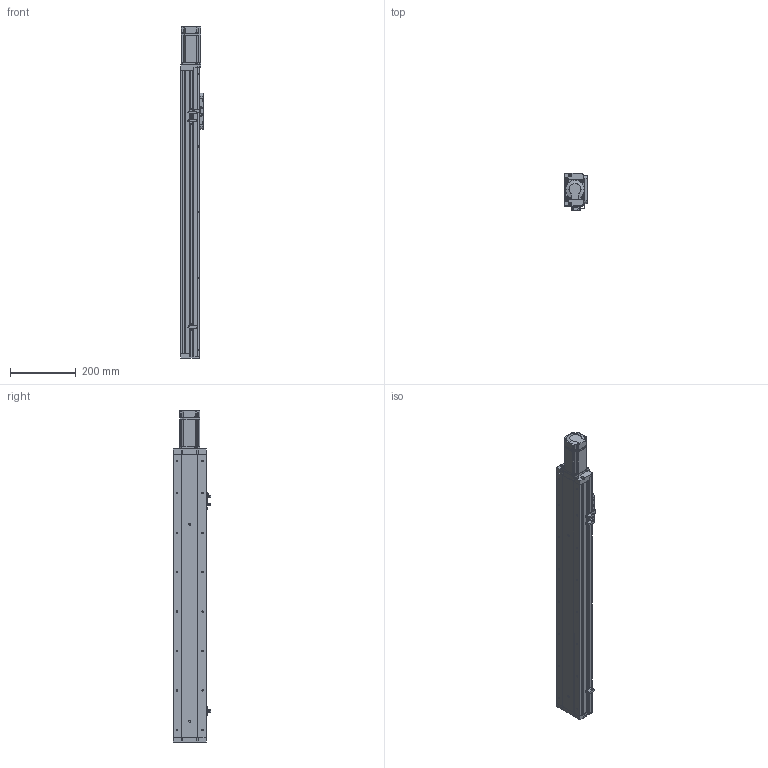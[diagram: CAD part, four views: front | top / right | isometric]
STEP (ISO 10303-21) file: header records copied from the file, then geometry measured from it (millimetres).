
FILE_DESCRIPTION (( 'STEP AP214' ), '1' );
FILE_NAME ('KSD100S-S650-MN-CR.STEP', '2019-09-02T09:28:14', ( '微软用户' ), ( '微软中国' ), 'SwSTEP 2.0', 'SolidWorks 2014', '' );
FILE_SCHEMA (( 'AUTOMOTIVE_DESIGN' ));
Length unit declared in the file: millimetre
Products named in the file (12): MHMD042G1CA_2_03; U倰嫖萇EEㄜSX672; 感应片100宽全封闭; 100宽马达安装板全封闭不带电机座; 100宽端板全封闭; 100宽滚珠螺姆安装板1防护罩; 100宽滚珠螺姆安装板1; 100宽盖板压板不带电机座; 100宽盖板650行程不带电机座; 100宽侧板650行程不带电机座; 100宽底板全封闭650行程不带电机座; KSD100S-S650-MN-CR
Assembly tree (15 placements, depth 2):
  KSD100S-S650-MN-CR
    100宽底板全封闭650行程不带电机座
    100宽侧板650行程不带电机座  x2
    100宽盖板650行程不带电机座
    100宽盖板压板不带电机座  x2
    100宽滚珠螺姆安装板1
    100宽滚珠螺姆安装板1防护罩
    100宽端板全封闭
    100宽马达安装板全封闭不带电机座
    感应片100宽全封闭
    U倰嫖萇EEㄜSX672  x3
    MHMD042G1CA_2_03
Bounding box: 70 x 113.7 x 1010.5 mm (x, y, z)
Volume: 1767071.6 mm3; surface area: 781817.8 mm2
Topology: 14 solids, 15 shells, 1528 faces, 4284 edges, 2734 vertices
Faces by surface type: plane 656, cylinder 637, cone 217, bspline 18
Entity records: 52176 total; most frequent: CARTESIAN_POINT 8149, DIRECTION 7143, ORIENTED_EDGE 6648, EDGE_CURVE 3396, AXIS2_PLACEMENT_3D 2536, VERTEX_POINT 2252, VECTOR 2071, LINE 2071
